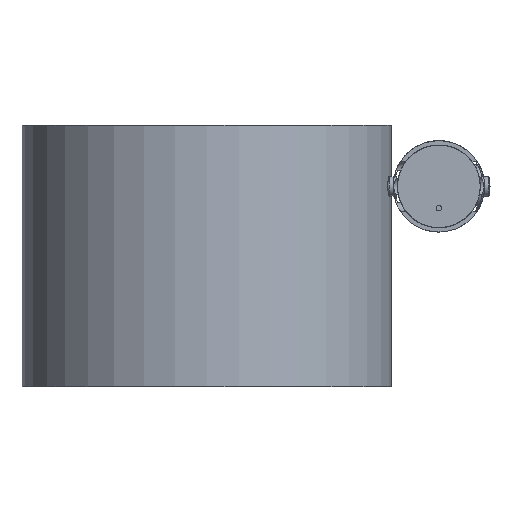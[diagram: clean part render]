
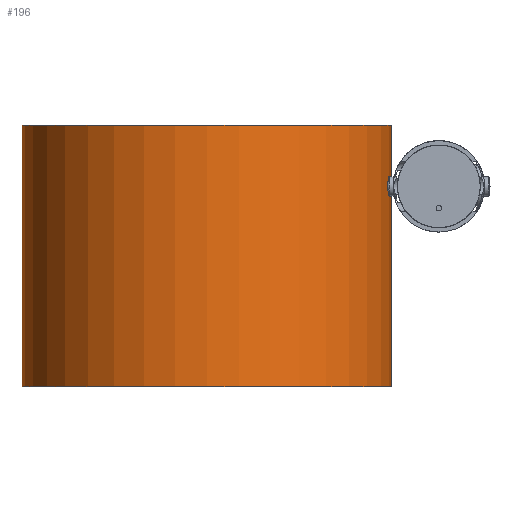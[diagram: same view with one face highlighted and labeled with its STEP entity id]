
A CAD part, front view. The second image highlights one B-rep face of the part: STEP entity #196.
In plain terms, the highlighted cylindrical face has radius 42.5 mm (diameter 85 mm), a partial arc.
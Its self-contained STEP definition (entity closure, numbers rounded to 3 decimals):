
#6=CARTESIAN_POINT('',(0.,0.,0.));
#7=DIRECTION('',(0.,0.,1.));
#8=DIRECTION('',(-1.,0.,0.));
#9=AXIS2_PLACEMENT_3D('',#6,#7,#8);
#24=DIRECTION('',(0.,0.,1.));
#25=VECTOR('',#24,60.);
#26=CARTESIAN_POINT('',(42.5,0.,0.));
#27=LINE('',#26,#25);
#28=DIRECTION('',(0.,0.,1.));
#29=VECTOR('',#28,60.);
#30=CARTESIAN_POINT('',(-42.5,0.,0.));
#31=LINE('',#30,#29);
#37=CARTESIAN_POINT('',(0.,0.,60.));
#38=DIRECTION('',(0.,0.,1.));
#39=DIRECTION('',(-1.,0.,0.));
#40=AXIS2_PLACEMENT_3D('',#37,#38,#39);
#113=CARTESIAN_POINT('',(42.5,0.,0.));
#114=CARTESIAN_POINT('',(-42.5,0.,0.));
#115=VERTEX_POINT('',#113);
#116=VERTEX_POINT('',#114);
#117=CARTESIAN_POINT('',(42.5,0.,60.));
#118=CARTESIAN_POINT('',(-42.5,0.,60.));
#119=VERTEX_POINT('',#117);
#120=VERTEX_POINT('',#118);
#184=CARTESIAN_POINT('',(0.,0.,0.));
#185=DIRECTION('',(0.,0.,1.));
#186=DIRECTION('',(1.,0.,0.));
#187=AXIS2_PLACEMENT_3D('',#184,#185,#186);
#188=CYLINDRICAL_SURFACE('',#187,42.5);
#189=ORIENTED_EDGE('',*,*,#154,.F.);
#190=ORIENTED_EDGE('',*,*,#179,.T.);
#192=ORIENTED_EDGE('',*,*,#191,.T.);
#193=ORIENTED_EDGE('',*,*,#175,.F.);
#194=EDGE_LOOP('',(#189,#190,#192,#193));
#195=FACE_OUTER_BOUND('',#194,.F.);
#196=ADVANCED_FACE('',(#195),#188,.T.);
#10=CIRCLE('',#9,42.5);
#41=CIRCLE('',#40,42.5);
#154=EDGE_CURVE('',#116,#115,#10,.T.);
#175=EDGE_CURVE('',#115,#119,#27,.T.);
#179=EDGE_CURVE('',#116,#120,#31,.T.);
#191=EDGE_CURVE('',#120,#119,#41,.T.);
